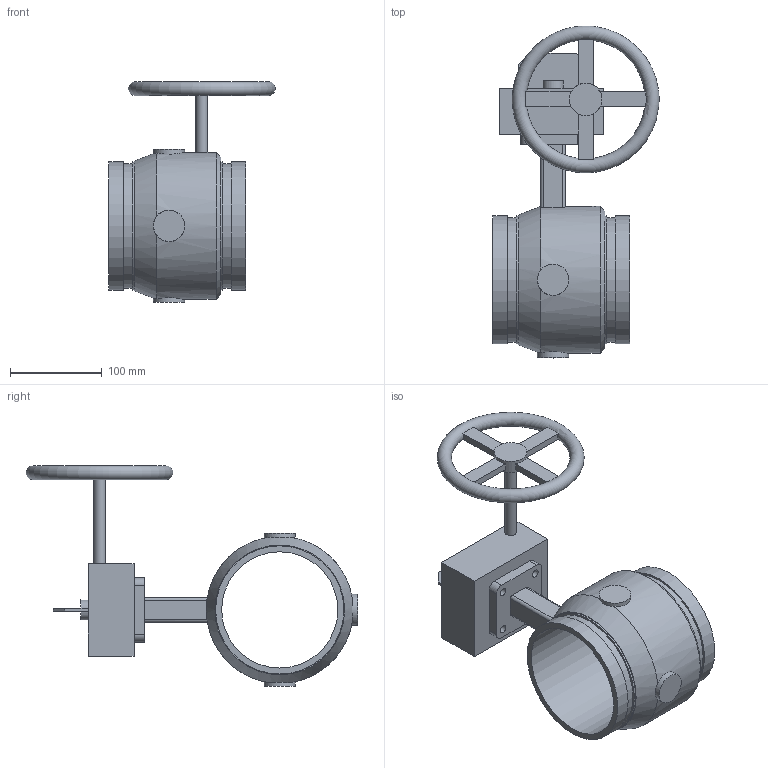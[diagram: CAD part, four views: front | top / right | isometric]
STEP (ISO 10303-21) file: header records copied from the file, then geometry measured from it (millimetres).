
FILE_DESCRIPTION(/* description */ ('VIC FP VALVE BUTTERFLY HP SERIES 766 (OGS)'),/* implementation_level */ '2;1');
FILE_NAME(/* name */ 'C:\Files for Export\766\Victaulic_EU_FP_Vlv Btfl HP_Series 766 (OGS)\Victaulic_EU_FP_Vlv Btfl HP_Series 766 (OGS)_05.0 (139.7) (125).stp',/* time_stamp */ '2024-06-27T12:46:39+02:00',/* author */ ('cps_temp'),/* organization */ ('Victaulic'),/* preprocessor_version */ 'ST-DEVELOPER v18.1',/* originating_system */ 'Autodesk Inventor 2020',/* authorisation */ '');
FILE_SCHEMA (('AUTOMOTIVE_DESIGN { 1 0 10303 214 3 1 1 }'));
Length unit declared in the file: inch
Products named in the file (1): 766-05.0 (139.7)
Bounding box: 181.1 x 361.37 x 240.54 mm (x, y, z)
Volume: 1597814.5 mm3; surface area: 247069 mm2
Topology: 1 solids, 2 shells, 91 faces, 243 edges, 166 vertices
Faces by surface type: plane 59, cylinder 29, cone 2, torus 1
Full cylindrical faces by diameter (mm): 8.636 x4, 12.7 x2, 34.036 x3, 35.56 x1, 55.118 x1, 126.594 x1, 135.484 x2, 139.7 x4, 160.02 x1
Entity records: 3387 total; most frequent: CARTESIAN_POINT 866, DIRECTION 496, ORIENTED_EDGE 486, EDGE_CURVE 243, AXIS2_PLACEMENT_3D 191, VERTEX_POINT 166, LINE 114, VECTOR 114
